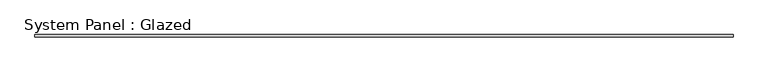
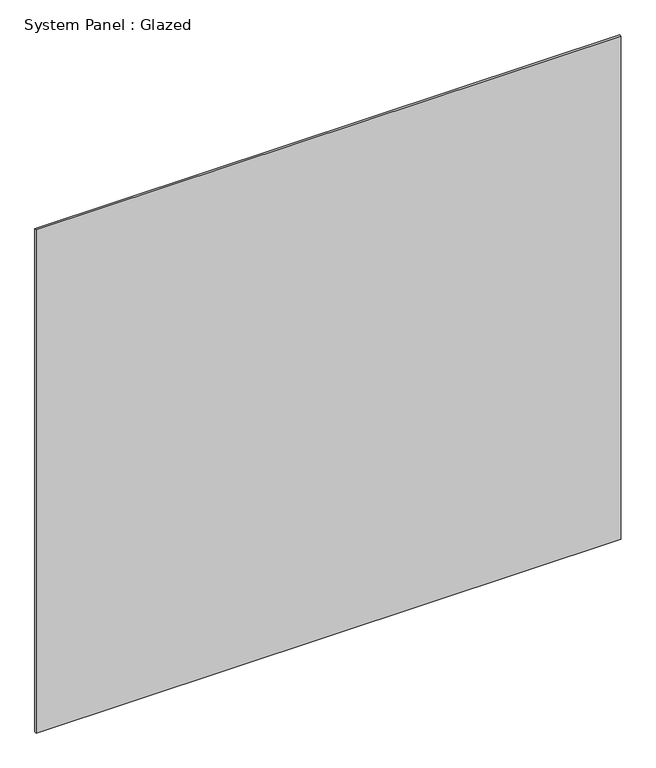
"""IFC4 building model written with IfcOpenShell, lengths in millimetres: plate geometry, System Panel : Glazed."""

from ifc_helpers import new_model, si_unit, origin, origin_with_axes, place, context, project, spatial, polyline, outline, extrude, source, transform, mapped, element, save


def system_panel_glazed_ea1d4783(model_context):
    return source(origin(), model_context, "Body", "SweptSolid", [
        extrude(outline(polyline([(3630.7945663, -49.5), (-3630.7945663, -49.5), (-3630.7945663, -24.5), (3630.7945663, -24.5), (3630.7945663, -49.5)])), origin_with_axes(), (0.0, 0.0, 1.0), 6600.0),
    ])


if __name__ == "__main__":
    model = new_model("IFC4")
    model_context = context("Model", 3, world=origin())
    ifc_project = project(units=[si_unit("LENGTHUNIT", "METRE", prefix="MILLI")], contexts=[model_context])
    site = spatial("IfcSite", under=ifc_project)
    building = spatial("IfcBuilding", under=site)
    placement = place(None, origin())
    system_panel_glazed_shape = system_panel_glazed_ea1d4783(model_context)
    element("IfcPlate", 1, ObjectType="System Panel : Glazed", at=placement, inside=building, context=model_context, shape_type="MappedRepresentation", body=[
        mapped(system_panel_glazed_shape, transform((0.0, 0.0, 0.0), x_axis=(1.0, 0.0, 0.0), y_axis=(0.0, 1.0, 0.0), z_axis=(0.0, 0.0, 1.0))),
    ])
    save(model, "model.ifc")
